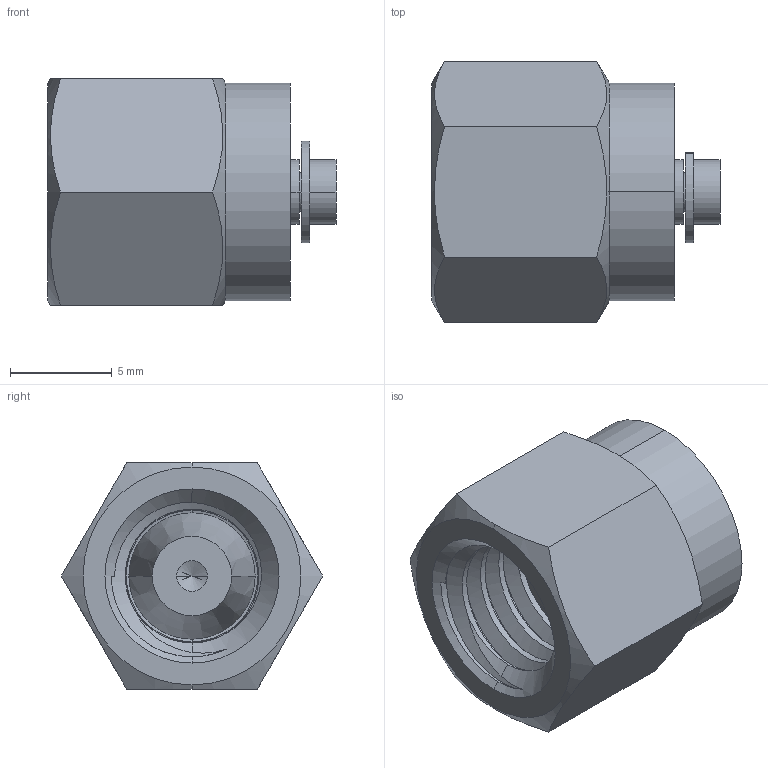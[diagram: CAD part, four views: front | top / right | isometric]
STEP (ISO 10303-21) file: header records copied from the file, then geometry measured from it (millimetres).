
FILE_DESCRIPTION (( 'STEP AP203' ), '1' );
FILE_NAME ('DBA02 SS.STEP', '2009-09-08T04:41:42', ( ' ' ), ( '' ), 'SwSTEP 2.0', 'SolidWorks 2008', '' );
FILE_SCHEMA (( 'CONFIG_CONTROL_DESIGN' ));
Length unit declared in the file: millimetre
Products named in the file (1): DBA02 SS
Bounding box: 14.14 x 12.83 x 11.11 mm (x, y, z)
Volume: 980.2 mm3; surface area: 1065.7 mm2
Topology: 2 solids, 2 shells, 77 faces, 195 edges, 126 vertices
Faces by surface type: cylinder 38, plane 23, cone 13, bspline 3
Entity records: 3060 total; most frequent: CARTESIAN_POINT 1196, ORIENTED_EDGE 386, DIRECTION 365, EDGE_CURVE 193, AXIS2_PLACEMENT_3D 143, VERTEX_POINT 126, EDGE_LOOP 83, VECTOR 79
